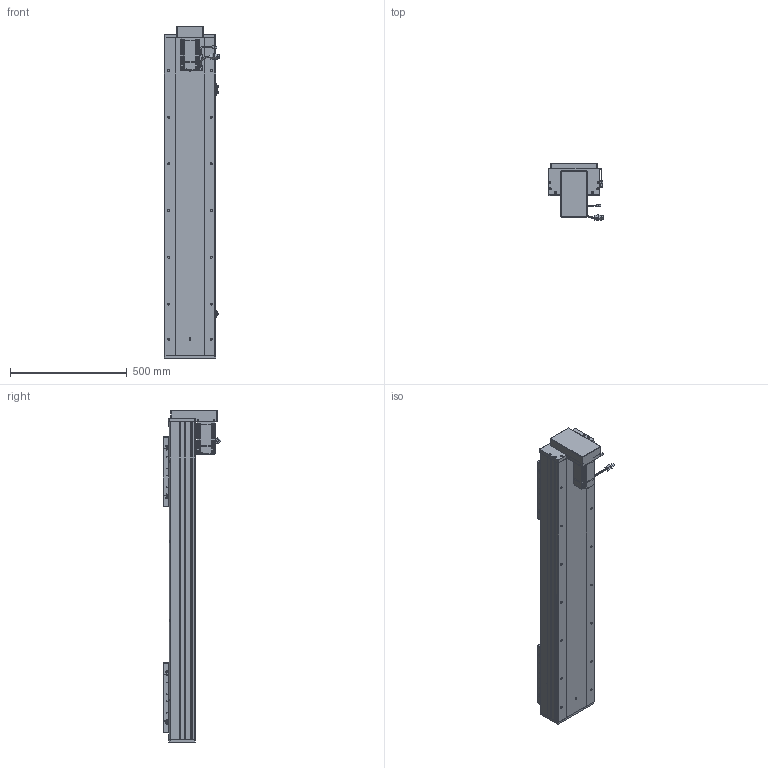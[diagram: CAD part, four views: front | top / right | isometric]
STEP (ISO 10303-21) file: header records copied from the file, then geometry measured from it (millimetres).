
FILE_DESCRIPTION (( 'STEP AP203' ), '1' );
FILE_NAME ('RY220F-L2525-300-BK.SLDASM_950.step', '2022-07-04T01:20:48', ( '' ), ( '' ), 'SwSTEP 2.0', 'SolidWorks 2016', '' );
FILE_SCHEMA (( 'CONFIG_CONTROL_DESIGN' ));
Length unit declared in the file: millimetre
Products named in the file (15): 滅袉蝶18-24; RY220F綴裔啣; 覜茼ん672; RY220狟殏萇儂欶; RY220F-滅鳥奻裔; RY220F-L2525-300-BK.SLDASM_950; 怢湛750W_ECMA-CX0807ES; RY220狟殏萇儂假蚾啣; RY220F-蛌殏奻裔啣-300_950; RY220F蛌殏菁釱-300_950; RY220F-祥凄詩湍-蛌殏-300_950; RY220F-詩湍揤踡輸; 侐源滅袉蝶; RY220F臏賑釱25-32佪裝; RY220F-672覜茼んえ
Assembly tree (24 placements, depth 2):
  RY220F-L2525-300-BK.SLDASM_950
    RY220F蛌殏菁釱-300_950
    RY220F-蛌殏奻裔啣-300_950  x2
    怢湛750W_ECMA-CX0807ES
    RY220F臏賑釱25-32佪裝  x2
    RY220F-滅鳥奻裔  x2
    滅袉蝶18-24  x3
    RY220F綴裔啣
    RY220F-祥凄詩湍-蛌殏-300_950
    RY220F-詩湍揤踡輸  x2
    覜茼ん672  x3
    RY220F-672覜茼んえ  x2
    侐源滅袉蝶  x2
    RY220狟殏萇儂假蚾啣
    RY220狟殏萇儂欶
Bounding box: 237.27 x 247.24 x 1421 mm (x, y, z)
Volume: 14091999 mm3; surface area: 3619472.6 mm2
Topology: 25 solids, 25 shells, 2747 faces, 7470 edges, 4627 vertices
Faces by surface type: cylinder 1218, plane 1062, cone 396, bspline 45, sphere 16, torus 10
Entity records: 68037 total; most frequent: CARTESIAN_POINT 18557, ORIENTED_EDGE 10018, DIRECTION 9685, EDGE_CURVE 5009, AXIS2_PLACEMENT_3D 3422, VERTEX_POINT 3243, VECTOR 2841, LINE 2841
